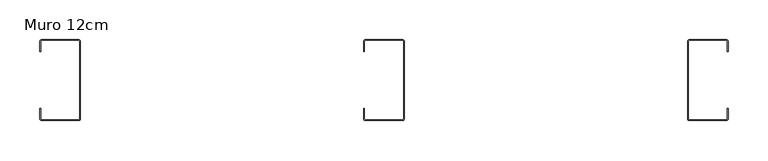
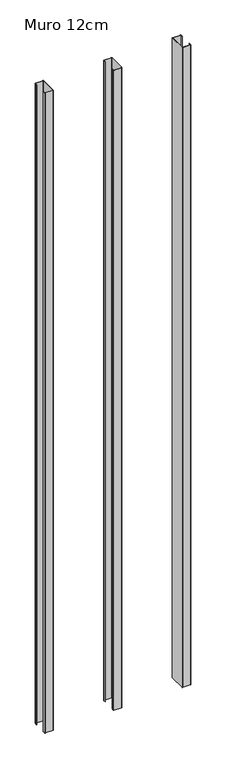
"""IFC4 building model written with IfcOpenShell, lengths in millimetres: plate geometry, Steelfoam Exterior : Muro 12cm."""

from ifc_helpers import new_model, si_unit, point, frame_2d, origin, origin_with_axes, place, context, project, spatial, polyline, circle_curve, trimmed, segment, composite_curve, outline, extrude, source, transform, mapped, element, save


def muro_12cm_3b9f7b31(model_context):
    return source(origin(), model_context, "Body", "SweptSolid", [
        extrude(outline(composite_curve([segment(trimmed(circle_curve(frame_2d((428.4603819, -99.6)), 2.0), [point((430.4603819, -99.6))], [point((428.4603819, -101.6))], False, "CARTESIAN"), True, "CONTINUOUS"), segment(polyline([(428.4603819, -101.6), (381.6603819, -101.6)]), True, "CONTINUOUS"), segment(trimmed(circle_curve(frame_2d((381.6603819, -99.6)), 2.0), [point((381.6603819, -101.6))], [point((379.6603819, -99.6))], False, "CARTESIAN"), True, "CONTINUOUS"), segment(polyline([(379.6603819, -99.6), (379.6603819, -2.0)]), True, "CONTINUOUS"), segment(trimmed(circle_curve(frame_2d((381.6603819, -2.0)), 2.0), [point((379.6603819, -2.0))], [point((381.6603819, 0.0))], False, "CARTESIAN"), True, "CONTINUOUS"), segment(polyline([(381.6603819, 0.0), (428.4603819, 0.0)]), True, "CONTINUOUS"), segment(trimmed(circle_curve(frame_2d((428.4603819, -2.0)), 2.0), [point((428.4603819, 0.0))], [point((430.4603819, -2.0))], False, "CARTESIAN"), True, "CONTINUOUS"), segment(polyline([(430.4603819, -2.0), (430.4603819, -15.0), (429.6603819, -15.0), (429.6603819, -2.0)]), True, "CONTINUOUS"), segment(trimmed(circle_curve(frame_2d((428.3603819, -2.0)), 1.3), [point((429.6603819, -2.0))], [point((428.3603819, -0.7))], True, "CARTESIAN"), True, "CONTINUOUS"), segment(polyline([(428.3603819, -0.7), (381.6603819, -0.7)]), True, "CONTINUOUS"), segment(trimmed(circle_curve(frame_2d((381.6603819, -2.0)), 1.3), [point((381.6603819, -0.7))], [point((380.3603819, -2.0))], True, "CARTESIAN"), True, "CONTINUOUS"), segment(polyline([(380.3603819, -2.0), (380.3603819, -99.6)]), True, "CONTINUOUS"), segment(trimmed(circle_curve(frame_2d((381.6603819, -99.6)), 1.3), [point((380.3603819, -99.6))], [point((381.6603819, -100.9))], True, "CARTESIAN"), True, "CONTINUOUS"), segment(polyline([(381.6603819, -100.9), (428.3603819, -100.9)]), True, "CONTINUOUS"), segment(trimmed(circle_curve(frame_2d((428.3603819, -99.6)), 1.3), [point((428.3603819, -100.9))], [point((429.6603819, -99.6))], True, "CARTESIAN"), True, "CONTINUOUS"), segment(polyline([(429.6603819, -99.6), (429.6603819, -86.6), (430.4603819, -86.6), (430.4603819, -99.6)]), True, "CONTINUOUS")], self_intersect=False)), origin_with_axes(), (0.0, 0.0, 1.0), 4000.0),
        extrude(outline(composite_curve([segment(polyline([(-26.4150776, -99.6), (-26.4150776, -86.6), (-25.6150776, -86.6), (-25.6150776, -99.6)]), True, "CONTINUOUS"), segment(trimmed(circle_curve(frame_2d((-24.3150776, -99.6)), 1.3), [point((-25.6150776, -99.6))], [point((-24.3150776, -100.9))], True, "CARTESIAN"), True, "CONTINUOUS"), segment(polyline([(-24.3150776, -100.9), (22.3849224, -100.9)]), True, "CONTINUOUS"), segment(trimmed(circle_curve(frame_2d((22.3849224, -99.6)), 1.3), [point((22.3849224, -100.9))], [point((23.6849224, -99.6))], True, "CARTESIAN"), True, "CONTINUOUS"), segment(polyline([(23.6849224, -99.6), (23.6849224, -2.0)]), True, "CONTINUOUS"), segment(trimmed(circle_curve(frame_2d((22.3849224, -2.0)), 1.3), [point((23.6849224, -2.0))], [point((22.3849224, -0.7))], True, "CARTESIAN"), True, "CONTINUOUS"), segment(polyline([(22.3849224, -0.7), (-24.3150776, -0.7)]), True, "CONTINUOUS"), segment(trimmed(circle_curve(frame_2d((-24.3150776, -2.0)), 1.3), [point((-24.3150776, -0.7))], [point((-25.6150776, -2.0))], True, "CARTESIAN"), True, "CONTINUOUS"), segment(polyline([(-25.6150776, -2.0), (-25.6150776, -15.0), (-26.4150776, -15.0), (-26.4150776, -2.0)]), True, "CONTINUOUS"), segment(trimmed(circle_curve(frame_2d((-24.4150776, -2.0)), 2.0), [point((-26.4150776, -2.0))], [point((-24.4150776, 0.0))], False, "CARTESIAN"), True, "CONTINUOUS"), segment(polyline([(-24.4150776, 0.0), (22.3849224, 0.0)]), True, "CONTINUOUS"), segment(trimmed(circle_curve(frame_2d((22.3849224, -2.0)), 2.0), [point((22.3849224, 0.0))], [point((24.3849224, -2.0))], False, "CARTESIAN"), True, "CONTINUOUS"), segment(polyline([(24.3849224, -2.0), (24.3849224, -99.6)]), True, "CONTINUOUS"), segment(trimmed(circle_curve(frame_2d((22.3849224, -99.6)), 2.0), [point((24.3849224, -99.6))], [point((22.3849224, -101.6))], False, "CARTESIAN"), True, "CONTINUOUS"), segment(polyline([(22.3849224, -101.6), (-24.4150776, -101.6)]), True, "CONTINUOUS"), segment(trimmed(circle_curve(frame_2d((-24.4150776, -99.6)), 2.0), [point((-24.4150776, -101.6))], [point((-26.4150776, -99.6))], False, "CARTESIAN"), True, "CONTINUOUS")], self_intersect=False)), origin_with_axes(), (0.0, 0.0, 1.0), 4000.0),
        extrude(outline(composite_curve([segment(polyline([(-432.4225297, -99.6), (-432.4225297, -86.6), (-431.6225297, -86.6), (-431.6225297, -99.6)]), True, "CONTINUOUS"), segment(trimmed(circle_curve(frame_2d((-430.3225297, -99.6)), 1.3), [point((-431.6225297, -99.6))], [point((-430.3225297, -100.9))], True, "CARTESIAN"), True, "CONTINUOUS"), segment(polyline([(-430.3225297, -100.9), (-383.6225297, -100.9)]), True, "CONTINUOUS"), segment(trimmed(circle_curve(frame_2d((-383.6225297, -99.6)), 1.3), [point((-383.6225297, -100.9))], [point((-382.3225297, -99.6))], True, "CARTESIAN"), True, "CONTINUOUS"), segment(polyline([(-382.3225297, -99.6), (-382.3225297, -2.0)]), True, "CONTINUOUS"), segment(trimmed(circle_curve(frame_2d((-383.6225297, -2.0)), 1.3), [point((-382.3225297, -2.0))], [point((-383.6225297, -0.7))], True, "CARTESIAN"), True, "CONTINUOUS"), segment(polyline([(-383.6225297, -0.7), (-430.3225297, -0.7)]), True, "CONTINUOUS"), segment(trimmed(circle_curve(frame_2d((-430.3225297, -2.0)), 1.3), [point((-430.3225297, -0.7))], [point((-431.6225297, -2.0))], True, "CARTESIAN"), True, "CONTINUOUS"), segment(polyline([(-431.6225297, -2.0), (-431.6225297, -15.0), (-432.4225297, -15.0), (-432.4225297, -2.0)]), True, "CONTINUOUS"), segment(trimmed(circle_curve(frame_2d((-430.4225297, -2.0)), 2.0), [point((-432.4225297, -2.0))], [point((-430.4225297, 0.0))], False, "CARTESIAN"), True, "CONTINUOUS"), segment(polyline([(-430.4225297, 0.0), (-383.6225297, 0.0)]), True, "CONTINUOUS"), segment(trimmed(circle_curve(frame_2d((-383.6225297, -2.0)), 2.0), [point((-383.6225297, 0.0))], [point((-381.6225297, -2.0))], False, "CARTESIAN"), True, "CONTINUOUS"), segment(polyline([(-381.6225297, -2.0), (-381.6225297, -99.6)]), True, "CONTINUOUS"), segment(trimmed(circle_curve(frame_2d((-383.6225297, -99.6)), 2.0), [point((-381.6225297, -99.6))], [point((-383.6225297, -101.6))], False, "CARTESIAN"), True, "CONTINUOUS"), segment(polyline([(-383.6225297, -101.6), (-430.4225297, -101.6)]), True, "CONTINUOUS"), segment(trimmed(circle_curve(frame_2d((-430.4225297, -99.6)), 2.0), [point((-430.4225297, -101.6))], [point((-432.4225297, -99.6))], False, "CARTESIAN"), True, "CONTINUOUS")], self_intersect=False)), origin_with_axes(), (0.0, 0.0, 1.0), 4000.0),
    ])


if __name__ == "__main__":
    model = new_model("IFC4")
    model_context = context("Model", 3, world=origin())
    ifc_project = project(units=[si_unit("LENGTHUNIT", "METRE", prefix="MILLI")], contexts=[model_context])
    site = spatial("IfcSite", under=ifc_project)
    building = spatial("IfcBuilding", under=site)
    placement = place(None, origin())
    muro_12cm_shape = muro_12cm_3b9f7b31(model_context)
    element("IfcPlate", 1, ObjectType="Steelfoam Exterior : Muro 12cm", at=placement, inside=building, context=model_context, shape_type="MappedRepresentation", body=[
        mapped(muro_12cm_shape, transform((0.0, 0.0, 0.0), x_axis=(1.0, 0.0, 0.0), y_axis=(0.0, 1.0, 0.0), z_axis=(0.0, 0.0, 1.0))),
    ])
    save(model, "model.ifc")
